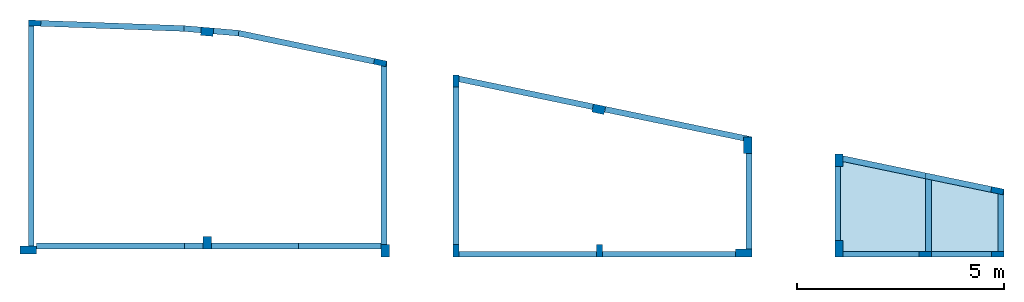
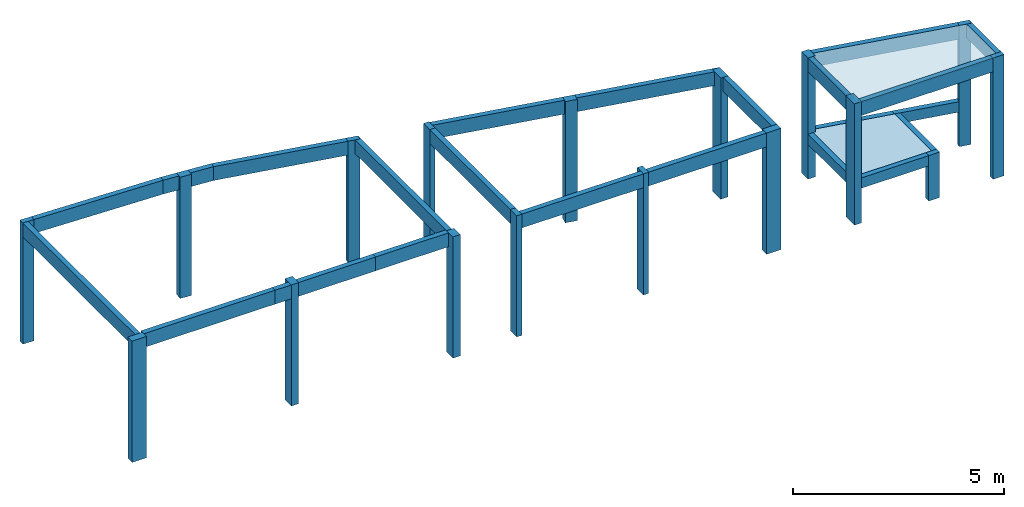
# One storey: 25 beams, 17 columns, 2 slabs.
"""IFC4 building model written with IfcOpenShell, lengths in centimetres."""

from ifc_helpers import new_model, si_unit, derived_unit, frame, origin, origin_with_axes, origin_2d_with_axis, place, context, project, spatial, polyline, rectangle, outline, extrude, clip, halfspace, material, element, save


model = new_model("IFC4")

# Units and contexts
model_context = context("Model", 3, precision=1e-05, world=origin_with_axes(), identifier="Body")
ifc_project = project(units=[si_unit("LENGTHUNIT", "METRE", prefix="CENTI"), si_unit("VOLUMEUNIT", "CUBIC_METRE"), si_unit("AREAUNIT", "SQUARE_METRE"), si_unit("POWERUNIT", "WATT"), si_unit("LUMINOUSFLUXUNIT", "LUMEN"), si_unit("ELECTRICCURRENTUNIT", "AMPERE"), si_unit("PRESSUREUNIT", "PASCAL", prefix="KILO"), si_unit("MASSUNIT", "GRAM", prefix="KILO"), si_unit("PLANEANGLEUNIT", "RADIAN"), derived_unit("VOLUMETRICFLOWRATEUNIT", [(si_unit("LENGTHUNIT", "METRE"), 3), (si_unit("TIMEUNIT", "SECOND"), -1)])], contexts=[model_context])

# Site, building, storey
site_placement = place(None, origin_with_axes())
site = spatial("IfcSite", under=ifc_project, at=site_placement)
building_placement = place(site_placement, origin())
building = spatial("IfcBuilding", under=site, at=building_placement)
placement_1 = place(building_placement, origin_with_axes())
placement_2 = place(placement_1, frame((0.0, 0.0, 550.0), z_axis=(0.0, 0.0, 1.0), x_axis=(1.0, 0.0, 0.0)))
placement_3 = place(placement_2, frame((0.0, 0.0, 350.0), z_axis=(0.0, 0.0, 1.0), x_axis=(1.0, 0.0, 0.0)))
placement_4 = place(placement_3, frame((0.0, 0.0, 350.0), z_axis=(0.0, 0.0, 1.0), x_axis=(1.0, 0.0, 0.0)))
placement_5 = place(placement_4, frame((0.0, 0.0, 350.0), z_axis=(0.0, 0.0, 1.0), x_axis=(1.0, 0.0, 0.0)))
storey_placement = place(placement_5, frame((0.0, 0.0, 350.0), z_axis=(0.0, 0.0, 1.0), x_axis=(1.0, 0.0, 0.0)))
storey = spatial("IfcBuildingStorey", under=building, at=storey_placement, Name="COBERTURA", CompositionType="ELEMENT", Elevation=1950.0)

# Columns
ifc_material = material(Name="Concreto")
column_1_placement = place(storey_placement, frame((1040.2334199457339, 99.10504561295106, 0.0), z_axis=(0.0, 0.0, 1.0), x_axis=(1.0, 0.0, 0.0)))
element("IfcColumn", 1, at=column_1_placement, inside=storey, material=ifc_material, Name="P1", context=model_context, shape_type="SolidModel", body=[
    extrude(rectangle(XDim=14.0, YDim=30.0, at=origin_2d_with_axis()), frame((0.0, 0.0, 0.0), z_axis=(0.0, 0.0, 1.0), x_axis=(-0.036643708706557, -0.999328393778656, 0.0)), (0.0, 0.0, -1.0), 350.0),
])
column_2_placement = place(storey_placement, frame((1887.0, -450.95, 0.0), z_axis=(0.0, 0.0, 1.0), x_axis=(1.0, 0.0, 0.0)))
element("IfcColumn", 2, at=column_2_placement, inside=storey, material=ifc_material, Name="P11", context=model_context, shape_type="SolidModel", body=[
    extrude(rectangle(XDim=20.0, YDim=30.0, at=origin_2d_with_axis()), frame((0.0, 0.0, 0.0), z_axis=(0.0, 0.0, 1.0), x_axis=(-1.0, 0.0, 0.0)), (0.0, 0.0, -1.0), 350.0),
])
column_3_placement = place(storey_placement, frame((2404.5, -450.9, 0.0), z_axis=(0.0, 0.0, 1.0), x_axis=(1.0, 0.0, 0.0)))
element("IfcColumn", 3, at=column_3_placement, inside=storey, material=ifc_material, Name="P12", context=model_context, shape_type="SolidModel", body=[
    extrude(rectangle(XDim=14.0, YDim=30.0, at=origin_2d_with_axis()), origin_with_axes(), (0.0, 0.0, -1.0), 350.0),
])
column_4_placement = place(storey_placement, frame((2753.0, -455.9, 0.0), z_axis=(0.0, 0.0, 1.0), x_axis=(1.0, 0.0, 0.0)))
element("IfcColumn", 4, at=column_4_placement, inside=storey, material=ifc_material, Name="P13", context=model_context, shape_type="SolidModel", body=[
    extrude(rectangle(XDim=20.0, YDim=40.0, at=origin_2d_with_axis()), frame((0.0, 0.0, 0.0), z_axis=(0.0, 0.0, 1.0), x_axis=(0.0, -1.0, 0.0)), (0.0, 0.0, -1.0), 350.0),
])
column_5_placement = place(storey_placement, frame((2983.0, -445.9, 0.0), z_axis=(0.0, 0.0, 1.0), x_axis=(1.0, 0.0, 0.0)))
element("IfcColumn", 5, at=column_5_placement, inside=storey, material=ifc_material, Name="P14", context=model_context, shape_type="SolidModel", body=[
    extrude(rectangle(XDim=20.0, YDim=40.0, at=origin_2d_with_axis()), origin_with_axes(), (0.0, 0.0, -1.0), 350.0),
])
column_6_placement = place(storey_placement, frame((3366.6, -458.9, 0.0), z_axis=(0.0, 0.0, 1.0), x_axis=(1.0, 0.0, 0.0)))
element("IfcColumn", 6, at=column_6_placement, inside=storey, material=ifc_material, Name="P15", context=model_context, shape_type="SolidModel", body=[
    extrude(rectangle(XDim=14.0, YDim=30.0, at=origin_2d_with_axis()), frame((0.0, 0.0, 0.0), z_axis=(0.0, 0.0, 1.0), x_axis=(0.0, -1.0, 0.0)), (0.0, 0.0, -1.0), 350.0),
])
column_7_placement = place(storey_placement, frame((1457.0958307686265, 78.33654703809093, 0.0), z_axis=(0.0, 0.0, 1.0), x_axis=(1.0, 0.0, 0.0)))
element("IfcColumn", 7, at=column_7_placement, inside=storey, material=ifc_material, Name="P2", context=model_context, shape_type="SolidModel", body=[
    extrude(rectangle(XDim=20.0, YDim=30.0, at=origin_2d_with_axis()), frame((0.0, 0.0, 0.0), z_axis=(0.0, 0.0, 1.0), x_axis=(-0.085416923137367, -0.996345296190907, 0.0)), (0.0, 0.0, -1.0), 350.0),
])
column_8_placement = place(storey_placement, frame((1874.892146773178, 3.777249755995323, 0.0), z_axis=(0.0, 0.0, 1.0), x_axis=(1.0, 0.0, 0.0)))
element("IfcColumn", 8, at=column_8_placement, inside=storey, material=ifc_material, Name="P3", context=model_context, shape_type="SolidModel", body=[
    extrude(rectangle(XDim=14.0, YDim=30.0, at=origin_2d_with_axis()), frame((0.0, 0.0, 0.0), z_axis=(0.0, 0.0, 1.0), x_axis=(-0.202787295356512, -0.979222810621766, 0.0)), (0.0, 0.0, -1.0), 350.0),
])
column_9_placement = place(storey_placement, frame((2402.755039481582, -108.86867388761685, 0.0), z_axis=(0.0, 0.0, 1.0), x_axis=(1.0, 0.0, 0.0)))
element("IfcColumn", 9, at=column_9_placement, inside=storey, material=ifc_material, Name="P4", context=model_context, shape_type="SolidModel", body=[
    extrude(rectangle(XDim=20.0, YDim=30.0, at=origin_2d_with_axis()), frame((0.0, 0.0, 0.0), z_axis=(0.0, 0.0, 1.0), x_axis=(-0.204496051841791, -0.978867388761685, 0.0)), (0.0, 0.0, -1.0), 350.0),
])
column_10_placement = place(storey_placement, frame((1457.1, -431.05, 0.0), z_axis=(0.0, 0.0, 1.0), x_axis=(1.0, 0.0, 0.0)))
element("IfcColumn", 10, at=column_10_placement, inside=storey, material=ifc_material, Name="P41", context=model_context, shape_type="SolidModel", body=[
    extrude(rectangle(XDim=20.0, YDim=30.0, at=origin_2d_with_axis()), origin_with_axes(), (0.0, 0.0, -1.0), 350.0),
])
column_11_placement = place(storey_placement, frame((2058.0, -40.64, 0.0), z_axis=(0.0, 0.0, 1.0), x_axis=(1.0, 0.0, 0.0)))
element("IfcColumn", 11, at=column_11_placement, inside=storey, material=ifc_material, Name="P42", context=model_context, shape_type="SolidModel", body=[
    extrude(rectangle(XDim=14.0, YDim=30.0, at=origin_2d_with_axis()), origin_with_axes(), (0.0, 0.0, -1.0), 350.0),
])
column_12_placement = place(storey_placement, frame((3365.492146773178, -305.6227502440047, 0.0), z_axis=(0.0, 0.0, 1.0), x_axis=(1.0, 0.0, 0.0)))
element("IfcColumn", 12, at=column_12_placement, inside=storey, material=ifc_material, Name="P43", context=model_context, shape_type="SolidModel", body=[
    extrude(rectangle(XDim=14.0, YDim=30.0, at=origin_2d_with_axis()), frame((0.0, 0.0, 0.0), z_axis=(0.0, 0.0, 1.0), x_axis=(0.202787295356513, 0.979222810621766, 0.0)), (0.0, 0.0, -1.0), 350.0),
])
column_13_placement = place(storey_placement, frame((2058.0, -450.9, 0.0), z_axis=(0.0, 0.0, 1.0), x_axis=(1.0, 0.0, 0.0)))
element("IfcColumn", 13, at=column_13_placement, inside=storey, material=ifc_material, Name="P44", context=model_context, shape_type="SolidModel", body=[
    extrude(rectangle(XDim=14.0, YDim=30.0, at=origin_2d_with_axis()), origin_with_axes(), (0.0, 0.0, -1.0), 350.0),
])
column_14_placement = place(storey_placement, frame((3191.0, -458.9, -220.0), z_axis=(0.0, 0.0, 1.0), x_axis=(1.0, 0.0, 0.0)))
element("IfcColumn", 14, at=column_14_placement, inside=storey, material=ifc_material, Name="P45", context=model_context, shape_type="SolidModel", body=[
    extrude(rectangle(XDim=14.0, YDim=30.0, at=origin_2d_with_axis()), frame((0.0, 0.0, 0.0), z_axis=(0.0, 0.0, 1.0), x_axis=(0.0, -1.0, 0.0)), (0.0, 0.0, -1.0), 131.45),
])
column_15_placement = place(storey_placement, frame((2763.0, -195.49, 0.0), z_axis=(0.0, 0.0, 1.0), x_axis=(1.0, 0.0, 0.0)))
element("IfcColumn", 15, at=column_15_placement, inside=storey, material=ifc_material, Name="P5", context=model_context, shape_type="SolidModel", body=[
    extrude(rectangle(XDim=20.0, YDim=40.0, at=origin_2d_with_axis()), origin_with_axes(), (0.0, 0.0, -1.0), 350.0),
])
column_16_placement = place(storey_placement, frame((2983.0, -232.0, 0.0), z_axis=(0.0, 0.0, 1.0), x_axis=(1.0, 0.0, 0.0)))
element("IfcColumn", 16, at=column_16_placement, inside=storey, material=ifc_material, Name="P6", context=model_context, shape_type="SolidModel", body=[
    extrude(rectangle(XDim=20.0, YDim=30.0, at=origin_2d_with_axis()), origin_with_axes(), (0.0, 0.0, -1.0), 350.0),
])
column_17_placement = place(storey_placement, frame((1025.0, -448.8, 0.0), z_axis=(0.0, 0.0, 1.0), x_axis=(1.0, 0.0, 0.0)))
element("IfcColumn", 17, at=column_17_placement, inside=storey, material=ifc_material, Name="P9", context=model_context, shape_type="SolidModel", body=[
    extrude(rectangle(XDim=20.0, YDim=40.0, at=origin_2d_with_axis()), frame((0.0, 0.0, 0.0), z_axis=(0.0, 0.0, 1.0), x_axis=(0.0, -1.0, 0.0)), (0.0, 0.0, -1.0), 350.0),
])

# Beams
beam_1_placement = place(storey_placement, frame((2058.0, -245.77, 0.0), z_axis=(0.0, 0.0, 1.0), x_axis=(1.0, 0.0, 0.0)))
element("IfcBeam", 18, at=beam_1_placement, inside=storey, material=ifc_material, Name="V1", context=model_context, shape_type="SolidModel", body=[
    extrude(rectangle(XDim=14.0, YDim=40.0, at=origin_2d_with_axis()), frame((0.0, -190.13, -20.0), z_axis=(0.0, 1.0, 0.0), x_axis=(1.0, 0.0, 0.0)), (0.0, 0.0, 1.0), 380.26),
])
beam_2_placement = place(storey_placement, frame((3084.5, -458.92, -220.0), z_axis=(0.0, 0.0, 1.0), x_axis=(1.0, 0.0, 0.0)))
element("IfcBeam", 19, at=beam_2_placement, inside=storey, material=ifc_material, Name="V2", context=model_context, shape_type="SolidModel", body=[
    extrude(rectangle(XDim=14.0, YDim=30.0, at=origin_2d_with_axis()), frame((-91.5, -0.02, -15.0), z_axis=(1.0, 0.000218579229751, 0.0), x_axis=(-0.000218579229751, 1.0, 0.0)), (0.0, 0.0, 1.0), 183.0),
])
beam_3_placement = place(storey_placement, frame((2980.0, -336.45, -220.0), z_axis=(0.0, 0.0, 1.0), x_axis=(1.0, 0.0, 0.0)))
element("IfcBeam", 20, at=beam_3_placement, inside=storey, material=ifc_material, Name="V3", context=model_context, shape_type="SolidModel", body=[
    extrude(rectangle(XDim=14.0, YDim=30.0, at=origin_2d_with_axis()), frame((0.0, -89.45, -15.0), z_axis=(0.0, 1.0, 0.0), x_axis=(1.0, 0.0, 0.0)), (0.0, 0.0, 1.0), 178.9),
])
beam_4_placement = place(storey_placement, frame((3199.0, -364.32813124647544, -220.0), z_axis=(0.0, 0.0, 1.0), x_axis=(1.0, 0.0, 0.0)))
element("IfcBeam", 21, at=beam_4_placement, inside=storey, material=ifc_material, Name="V4", context=model_context, shape_type="Clipping", body=[
    clip(extrude(rectangle(XDim=14.0, YDim=30.0, at=origin_2d_with_axis()), frame((0.0, -87.57186875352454, -15.0), z_axis=(0.0, 1.0, 0.0), x_axis=(1.0, 0.0, 0.0)), (0.0, 0.0, 1.0), 175.14373750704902), halfspace(frame((-7.0, 87.57186875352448, -30.0), z_axis=(-0.203230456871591, -0.9791309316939, 0.0), x_axis=(0.0, 0.0, -0.203230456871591)), True)),
])
beam_5_placement = place(storey_placement, frame((3095.2886581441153, -249.53234476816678, -220.0), z_axis=(0.0, 0.0, 1.0), x_axis=(1.0, 0.0, 0.0)))
element("IfcBeam", 22, at=beam_5_placement, inside=storey, material=ifc_material, Name="V5", context=model_context, shape_type="SolidModel", body=[
    extrude(rectangle(XDim=14.0, YDim=30.0, at=origin_2d_with_axis()), frame((-103.71134185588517, 21.527655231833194, -15.0), z_axis=(0.97912884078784, -0.203240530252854, 0.0), x_axis=(0.203240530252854, 0.97912884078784, 0.0)), (0.0, 0.0, 1.0), 211.84411598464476),
])
beam_6_placement = place(storey_placement, frame((3272.1163065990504, -285.94089242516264, -220.0), z_axis=(0.0, 0.0, 1.0), x_axis=(1.0, 0.0, 0.0)))
element("IfcBeam", 23, at=beam_6_placement, inside=storey, material=ifc_material, Name="V5", context=model_context, shape_type="Clipping", body=[
    clip(extrude(rectangle(XDim=14.0, YDim=30.0, at=origin_2d_with_axis()), frame((-81.53891979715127, 16.629107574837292, -15.0), z_axis=(0.979130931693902, -0.20323045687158, 0.0), x_axis=(0.20323045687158, 0.979130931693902, 0.0)), (0.0, 0.0, 1.0), 163.64779010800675), halfspace(frame((-80.1163065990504, 23.483024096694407, 0.0), z_axis=(1.0, 0.0, 0.0), x_axis=(0.0, 0.0, -0.20323045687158)), True)),
])
beam_7_placement = place(storey_placement, frame((1223.675, -439.05, 0.0), z_axis=(0.0, 0.0, 1.0), x_axis=(1.0, 0.0, 0.0)))
element("IfcBeam", 24, at=beam_7_placement, inside=storey, material=ifc_material, Name="V1", context=model_context, shape_type="SolidModel", body=[
    extrude(rectangle(XDim=14.0, YDim=40.0, at=origin_2d_with_axis()), frame((-178.675, 0.0, -20.0), z_axis=(1.0, 0.0, 0.0), x_axis=(0.0, 1.0, 0.0)), (0.0, 0.0, 1.0), 357.35),
])
beam_8_placement = place(storey_placement, frame((1777.29, -439.05, 0.0), z_axis=(0.0, 0.0, 1.0), x_axis=(1.0, 0.0, 0.0)))
element("IfcBeam", 25, at=beam_8_placement, inside=storey, material=ifc_material, Name="V1", context=model_context, shape_type="SolidModel", body=[
    extrude(rectangle(XDim=14.0, YDim=40.0, at=origin_2d_with_axis()), frame((-99.71, 0.0, -20.0), z_axis=(1.0, 0.0, 0.0), x_axis=(0.0, 1.0, 0.0)), (0.0, 0.0, 1.0), 199.42),
])
beam_9_placement = place(storey_placement, frame((1572.34, -439.05, 0.0), z_axis=(0.0, 0.0, 1.0), x_axis=(1.0, 0.0, 0.0)))
element("IfcBeam", 26, at=beam_9_placement, inside=storey, material=ifc_material, Name="V1", context=model_context, shape_type="SolidModel", body=[
    extrude(rectangle(XDim=14.0, YDim=40.0, at=origin_2d_with_axis()), frame((-105.24, 0.0, -20.0), z_axis=(1.0, 0.0, 0.0), x_axis=(0.0, 1.0, 0.0)), (0.0, 0.0, 1.0), 210.48),
])
beam_10_placement = place(storey_placement, frame((1424.725, -439.05, 0.0), z_axis=(0.0, 0.0, 1.0), x_axis=(1.0, 0.0, 0.0)))
element("IfcBeam", 27, at=beam_10_placement, inside=storey, material=ifc_material, Name="V1", context=model_context, shape_type="SolidModel", body=[
    extrude(rectangle(XDim=14.0, YDim=40.0, at=origin_2d_with_axis()), frame((-22.375, 0.0, -20.0), z_axis=(1.0, 0.0, 0.0), x_axis=(0.0, 1.0, 0.0)), (0.0, 0.0, 1.0), 44.75),
])
beam_11_placement = place(storey_placement, frame((2594.685904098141, -145.67192348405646, 0.0), z_axis=(0.0, 0.0, 1.0), x_axis=(1.0, 0.0, 0.0)))
element("IfcBeam", 28, at=beam_11_placement, inside=storey, material=ifc_material, Name="V10", context=model_context, shape_type="SolidModel", body=[
    extrude(rectangle(XDim=14.0, YDim=40.0, at=origin_2d_with_axis()), frame((-176.6359040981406, 36.67192348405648, -20.0), z_axis=(0.979120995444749, -0.20327832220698, 0.0), x_axis=(0.20327832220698, 0.979120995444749, 0.0)), (0.0, 0.0, 1.0), 360.80505865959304),
])
beam_12_placement = place(storey_placement, frame((2226.128527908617, -69.15228953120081, 0.0), z_axis=(0.0, 0.0, 1.0), x_axis=(1.0, 0.0, 0.0)))
element("IfcBeam", 29, at=beam_12_placement, inside=storey, material=ifc_material, Name="V10", context=model_context, shape_type="SolidModel", body=[
    extrude(rectangle(XDim=14.0, YDim=40.0, at=origin_2d_with_axis()), frame((-162.5514720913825, 33.747710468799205, -20.0), z_axis=(0.979121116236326, -0.203277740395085, 0.0), x_axis=(0.203277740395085, 0.979121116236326, 0.0)), (0.0, 0.0, 1.0), 332.0354742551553),
])
beam_13_placement = place(storey_placement, frame((3171.194224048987, -265.31758465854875, 0.0), z_axis=(0.0, 0.0, 1.0), x_axis=(1.0, 0.0, 0.0)))
element("IfcBeam", 30, at=beam_13_placement, inside=storey, material=ifc_material, Name="V11", context=model_context, shape_type="SolidModel", body=[
    extrude(rectangle(XDim=14.0, YDim=40.0, at=origin_2d_with_axis()), frame((-179.6157759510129, 37.25241534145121, -20.0), z_axis=(0.979162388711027, -0.203078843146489, 0.0), x_axis=(0.203078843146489, 0.979162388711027, 0.0)), (0.0, 0.0, 1.0), 366.8763792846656),
])
beam_14_placement = place(storey_placement, frame((2231.25, -458.9, 0.0), z_axis=(0.0, 0.0, 1.0), x_axis=(1.0, 0.0, 0.0)))
element("IfcBeam", 31, at=beam_14_placement, inside=storey, material=ifc_material, Name="V2", context=model_context, shape_type="SolidModel", body=[
    extrude(rectangle(XDim=14.0, YDim=40.0, at=origin_2d_with_axis()), frame((-166.25, 0.0, -20.0), z_axis=(1.0, 0.0, 0.0), x_axis=(0.0, 1.0, 0.0)), (0.0, 0.0, 1.0), 332.5),
])
beam_15_placement = place(storey_placement, frame((2572.25, -458.9, 0.0), z_axis=(0.0, 0.0, 1.0), x_axis=(1.0, 0.0, 0.0)))
element("IfcBeam", 32, at=beam_15_placement, inside=storey, material=ifc_material, Name="V2", context=model_context, shape_type="SolidModel", body=[
    extrude(rectangle(XDim=14.0, YDim=40.0, at=origin_2d_with_axis()), frame((-160.75, 0.0, -20.0), z_axis=(1.0, 0.0, 0.0), x_axis=(0.0, 1.0, 0.0)), (0.0, 0.0, 1.0), 321.5),
])
beam_16_placement = place(storey_placement, frame((3172.3, -458.9, 0.0), z_axis=(0.0, 0.0, 1.0), x_axis=(1.0, 0.0, 0.0)))
element("IfcBeam", 33, at=beam_16_placement, inside=storey, material=ifc_material, Name="V3", context=model_context, shape_type="SolidModel", body=[
    extrude(rectangle(XDim=14.0, YDim=40.0, at=origin_2d_with_axis()), frame((-179.3, 0.0, -20.0), z_axis=(1.0, 0.0, 0.0), x_axis=(0.0, 1.0, 0.0)), (0.0, 0.0, 1.0), 358.6),
])
beam_17_placement = place(storey_placement, frame((1032.0, -173.07053731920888, 0.0), z_axis=(0.0, 0.0, 1.0), x_axis=(1.0, 0.0, 0.0)))
element("IfcBeam", 34, at=beam_17_placement, inside=storey, material=ifc_material, Name="V4", context=model_context, shape_type="SolidModel", body=[
    extrude(rectangle(XDim=14.0, YDim=40.0, at=origin_2d_with_axis()), frame((0.0, -265.72946268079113, -20.0), z_axis=(0.0, 1.0, 0.0), x_axis=(1.0, 0.0, 0.0)), (0.0, 0.0, 1.0), 531.4589253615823),
])
beam_18_placement = place(storey_placement, frame((1884.0, -214.18, 0.0), z_axis=(0.0, 0.0, 1.0), x_axis=(1.0, 0.0, 0.0)))
element("IfcBeam", 35, at=beam_18_placement, inside=storey, material=ifc_material, Name="V5", context=model_context, shape_type="SolidModel", body=[
    extrude(rectangle(XDim=14.0, YDim=40.0, at=origin_2d_with_axis()), frame((0.0, -221.77, -20.0), z_axis=(0.0, 1.0, 0.0), x_axis=(1.0, 0.0, 0.0)), (0.0, 0.0, 1.0), 443.54),
])
beam_19_placement = place(storey_placement, frame((2766.0, -330.695, 0.0), z_axis=(0.0, 0.0, 1.0), x_axis=(1.0, 0.0, 0.0)))
element("IfcBeam", 36, at=beam_19_placement, inside=storey, material=ifc_material, Name="V6", context=model_context, shape_type="SolidModel", body=[
    extrude(rectangle(XDim=14.0, YDim=40.0, at=origin_2d_with_axis()), frame((0.0, -115.205, -20.0), z_axis=(0.0, 1.0, 0.0), x_axis=(1.0, 0.0, 0.0)), (0.0, 0.0, 1.0), 230.41),
])
beam_20_placement = place(storey_placement, frame((2980.0, -336.45, 0.0), z_axis=(0.0, 0.0, 1.0), x_axis=(1.0, 0.0, 0.0)))
element("IfcBeam", 37, at=beam_20_placement, inside=storey, material=ifc_material, Name="V7", context=model_context, shape_type="SolidModel", body=[
    extrude(rectangle(XDim=14.0, YDim=40.0, at=origin_2d_with_axis()), frame((0.0, -89.45, -20.0), z_axis=(0.0, 1.0, 0.0), x_axis=(1.0, 0.0, 0.0)), (0.0, 0.0, 1.0), 178.9),
])
beam_21_placement = place(storey_placement, frame((3374.6, -376.855, 0.0), z_axis=(0.0, 0.0, 1.0), x_axis=(1.0, 0.0, 0.0)))
element("IfcBeam", 38, at=beam_21_placement, inside=storey, material=ifc_material, Name="V8", context=model_context, shape_type="SolidModel", body=[
    extrude(rectangle(XDim=14.0, YDim=40.0, at=origin_2d_with_axis()), frame((0.0, -75.045, -20.0), z_axis=(0.0, 1.0, 0.0), x_axis=(1.0, 0.0, 0.0)), (0.0, 0.0, 1.0), 150.09),
])
beam_22_placement = place(storey_placement, frame((1696.8055903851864, 40.862739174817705, 0.0), z_axis=(0.0, 0.0, 1.0), x_axis=(1.0, 0.0, 0.0)))
element("IfcBeam", 39, at=beam_22_placement, inside=storey, material=ifc_material, Name="V9", context=model_context, shape_type="Clipping", body=[
    clip(extrude(rectangle(XDim=14.0, YDim=40.0, at=origin_2d_with_axis()), frame((-164.2167711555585, 34.05273917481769, -20.0), z_axis=(0.979067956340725, -0.203533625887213, 0.0), x_axis=(0.203533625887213, 0.979067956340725, 0.0)), (0.0, 0.0, 1.0), 334.6153641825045), halfspace(frame((-162.79203577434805, 40.90621486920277, 0.0), z_axis=(0.989499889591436, -0.14453362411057, 0.0), x_axis=(0.0, 0.0, -0.059888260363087)), True)),
])
beam_23_placement = place(storey_placement, frame((1502.8542256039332, 77.43785189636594, 0.0), z_axis=(0.0, 0.0, 1.0), x_axis=(1.0, 0.0, 0.0)))
element("IfcBeam", 40, at=beam_23_placement, inside=storey, material=ifc_material, Name="V9", context=model_context, shape_type="Clipping", body=[
    clip(extrude(rectangle(XDim=14.0, YDim=40.0, at=origin_2d_with_axis()), frame((-30.56422560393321, 2.572148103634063, -20.0), z_axis=(0.996379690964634, -0.085014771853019, 0.0), x_axis=(0.085014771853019, 0.996379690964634, 0.0)), (0.0, 0.0, 1.0), 61.35055919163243), halfspace(frame((31.159329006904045, 4.331102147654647, -40.0), z_axis=(-0.989499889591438, 0.144533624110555, 0.0), x_axis=(0.0, 0.0, -0.05988826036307)), True)),
])
beam_24_placement = place(storey_placement, frame((1421.8111831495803, 84.33737819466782, 0.0), z_axis=(0.0, 0.0, 1.0), x_axis=(1.0, 0.0, 0.0)))
element("IfcBeam", 41, at=beam_24_placement, inside=storey, material=ifc_material, Name="V9", context=model_context, shape_type="Clipping", body=[
    clip(extrude(rectangle(XDim=14.0, YDim=40.0, at=origin_2d_with_axis()), frame((-20.933549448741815, 1.777378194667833, -20.0), z_axis=(0.996355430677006, -0.085298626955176, 0.0), x_axis=(0.085298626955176, 0.996355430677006, 0.0)), (0.0, 0.0, 1.0), 41.674250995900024), halfspace(frame((-20.33645906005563, 8.751866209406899, 0.0), z_axis=(0.99815870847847, -0.060656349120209, 0.0), x_axis=(0.0, 0.0, -0.024706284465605)), True)),
])
beam_25_placement = place(storey_placement, frame((1228.2214424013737, 92.32811195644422, 0.0), z_axis=(0.0, 0.0, 1.0), x_axis=(1.0, 0.0, 0.0)))
element("IfcBeam", 42, at=beam_25_placement, inside=storey, material=ifc_material, Name="V9", context=model_context, shape_type="Clipping", body=[
    clip(extrude(rectangle(XDim=14.0, YDim=40.0, at=origin_2d_with_axis()), frame((-173.00144240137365, 6.221888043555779, -20.0), z_axis=(0.999352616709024, -0.035977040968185, 0.0), x_axis=(0.035977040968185, 0.999352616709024, 0.0)), (0.0, 0.0, 1.0), 346.2270263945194), halfspace(frame((173.253281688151, 0.76113244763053, -40.0), z_axis=(-0.99815870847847, 0.060656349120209, 0.0), x_axis=(0.0, 0.0, -0.024706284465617)), True)),
])

# Slabs
slab_1_placement = place(storey_placement, frame((3177.3, -343.707, 0.0), z_axis=(0.0, 0.0, 1.0), x_axis=(1.0, 0.0, 0.0)))
element("IfcSlab", 43, at=slab_1_placement, inside=storey, material=ifc_material, Name="L1", PredefinedType="FLOOR", context=model_context, shape_type="SolidModel", body=[
    extrude(outline(polyline([(190.3, 30.495578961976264), (172.08, 34.26657896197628), (-184.3, 108.19257896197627), (-184.3, 96.70657896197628), (-190.299, 96.70657896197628), (-190.3, -82.19242103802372), (-184.3, -82.19242103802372), (-184.299, -108.19242103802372), (190.299, -108.1934210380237), (190.3, 30.495578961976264), (190.3, 30.495578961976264)])), frame((0.0, 0.000421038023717, -15.0), z_axis=(0.0, 0.0, 1.0), x_axis=(1.0, 0.0, 0.0)), (0.0, 0.0, 1.0), 15.0),
])
slab_2_placement = place(storey_placement, frame((3089.5, -343.6965, -220.0), z_axis=(0.0, 0.0, 1.0), x_axis=(1.0, 0.0, 0.0)))
element("IfcSlab", 44, at=slab_2_placement, inside=storey, material=ifc_material, Name="L2", PredefinedType="FLOOR", context=model_context, shape_type="SolidModel", body=[
    extrude(outline(polyline([(86.5, -108.20256382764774), (102.5, -108.20256382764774), (102.499, 66.94443617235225), (-96.499, 108.24243617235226), (-96.5, 96.69643617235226), (-102.499, 96.69643617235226), (-102.5, -82.20256382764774), (-96.5, -82.20256382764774), (-96.5, -108.2425638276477), (86.5, -108.20256382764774), (86.5, -108.20256382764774)])), frame((0.0, 6.382764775e-05, -15.0), z_axis=(0.0, 0.0, 1.0), x_axis=(1.0, 0.0, 0.0)), (0.0, 0.0, 1.0), 15.0),
])

save(model, "model.ifc")
